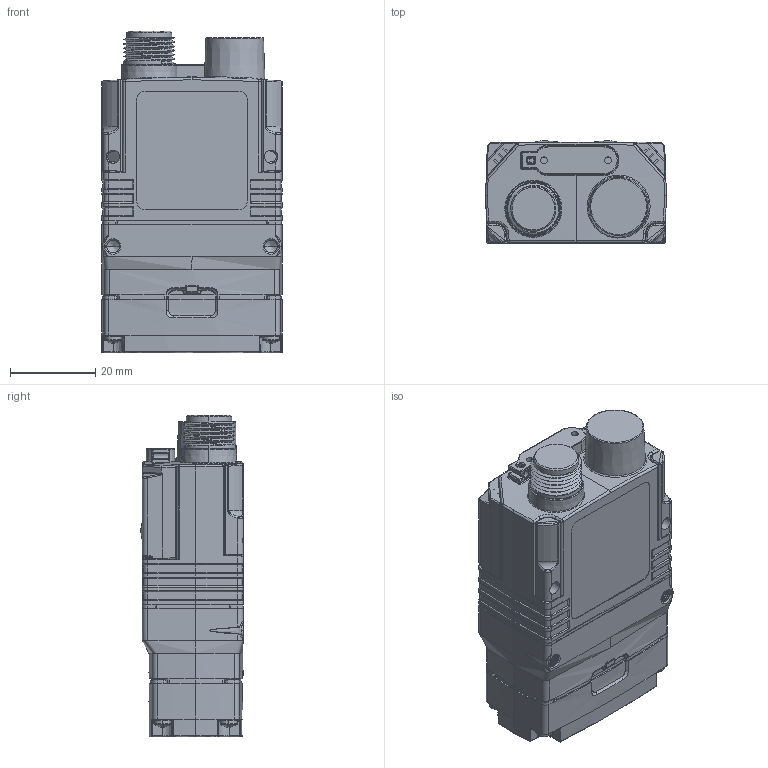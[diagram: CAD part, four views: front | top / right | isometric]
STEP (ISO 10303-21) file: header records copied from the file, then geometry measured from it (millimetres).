
FILE_DESCRIPTION (( 'STEP AP203' ), '1' );
FILE_NAME ('DM280_6,2mm_normalcover_straight.STEP', '2021-02-05T13:10:08', ( '' ), ( '' ), 'SwSTEP 2.0', 'SolidWorks 2019', '' );
FILE_SCHEMA (( 'CONFIG_CONTROL_DESIGN' ));
Products named in the file (1): DM280_6,2mm_normalcover_straight
Bounding box: 42.4 x 23.96 x 75.46 mm (x, y, z)
Volume: 62443.7 mm3; surface area: 24424.1 mm2
Topology: 19 solids, 37 shells, 3905 faces, 10101 edges, 6324 vertices
Faces by surface type: plane 1483, cylinder 1077, bspline 686, cone 376, torus 183, sphere 100
Entity records: 153343 total; most frequent: CARTESIAN_POINT 66022, ORIENTED_EDGE 20074, DIRECTION 16224, EDGE_CURVE 10037, VERTEX_POINT 6322, AXIS2_PLACEMENT_3D 5701, VECTOR 4822, LINE 4822
